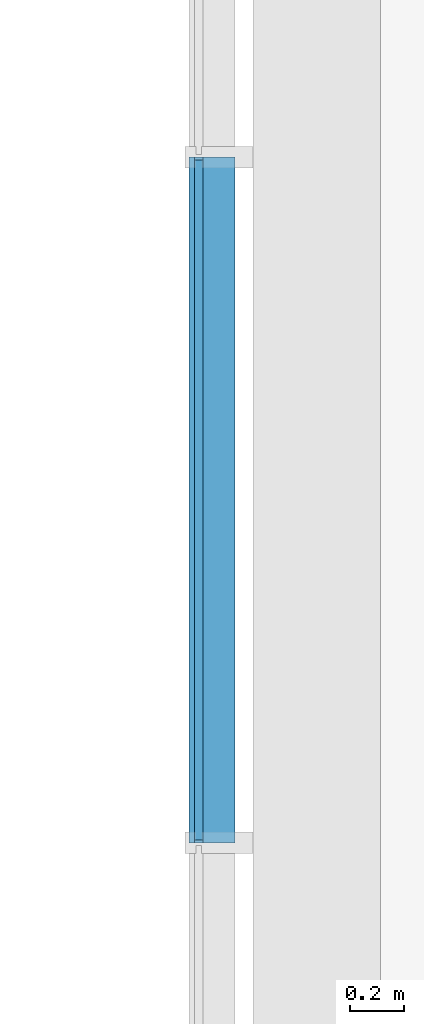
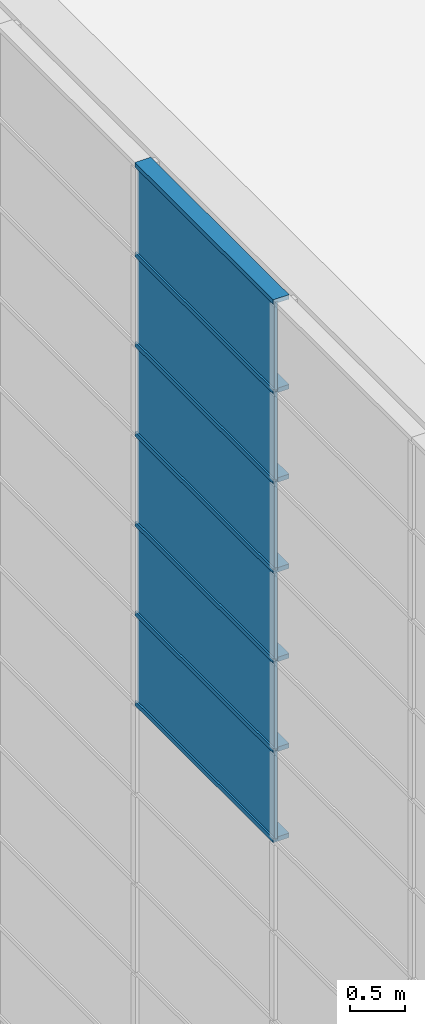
# One storey, part 18 of 105: 14 building element parts, 2 elements without a shape of their own.
"""IFC4 building model written with IfcOpenShell, lengths in millimetres."""

from ifc_helpers import new_model, entity, si_unit, converted_unit, derived_unit, direction, frame, origin_with_axes, place, context, subcontext, project, spatial, triangles, material, element, aggregate, save


model = new_model("IFC4")

# Units and contexts
model_context = context("Model", 3, precision=1e-05, world=origin_with_axes(), true_north=direction((0.0, 1.0)))
body_context = subcontext(model_context, "Body", "Model", "MODEL_VIEW")
ifc_project = project(units=[si_unit("LENGTHUNIT", "METRE", prefix="MILLI"), si_unit("AREAUNIT", "SQUARE_METRE"), si_unit("VOLUMEUNIT", "CUBIC_METRE"), converted_unit("PLANEANGLEUNIT", "DEGREE", entity("IfcLengthMeasure", 0.017453), si_unit("PLANEANGLEUNIT", "RADIAN"), dimensions=[0, 0, 0, 0, 0, 0, 0]), si_unit("SOLIDANGLEUNIT", "STERADIAN"), si_unit("MASSUNIT", "GRAM"), si_unit("TIMEUNIT", "SECOND"), si_unit("THERMODYNAMICTEMPERATUREUNIT", "DEGREE_CELSIUS"), si_unit("LUMINOUSINTENSITYUNIT", "LUMEN"), si_unit("POWERUNIT", "WATT"), derived_unit("THERMALTRANSMITTANCEUNIT", [(si_unit("POWERUNIT", "WATT"), 1), (si_unit("THERMODYNAMICTEMPERATUREUNIT", "KELVIN"), -1), (si_unit("AREAUNIT", "SQUARE_METRE"), -1)])], contexts=[model_context])

# Site, building, storey
site_placement = place(None, origin_with_axes())
site = spatial("IfcSite", under=ifc_project, at=site_placement, Name="Default Site", CompositionType="ELEMENT")
building_placement = place(site_placement, origin_with_axes())
building = spatial("IfcBuilding", under=site, at=building_placement, Name="Default Building", CompositionType="ELEMENT")
storey_placement = place(building_placement, origin_with_axes())
storey = spatial("IfcBuildingStorey", under=building, at=storey_placement, Name="OG - Story", CompositionType="ELEMENT", Elevation=0.0)

# Curtain wall, building element parts
curtain_wall_1_placement = place(storey_placement, origin_with_axes())
curtain_wall_1 = element("IfcCurtainWall", 1, at=curtain_wall_1_placement, inside=storey, Name="Fassade-003", PredefinedType="NOTDEFINED")
ifc_material_1 = material(Name="Normalglas")
building_element_part_1_placement = place(curtain_wall_1_placement, frame((31551.391327, -51326.104944, 6000.0), z_axis=(0.0, 0.0, 1.0), x_axis=(1.0, 0.0, 0.0)))
building_element_part_1 = element("IfcBuildingElementPart", 2, at=building_element_part_1_placement, material=ifc_material_1, Name="Normalglas", PredefinedType="NOTDEFINED", context=body_context, shape_type="Tessellation", body=[
    triangles([(15.0, 31568.947, 995.0), (-14.999, 31568.947, 995.0), (-14.999, 29062.632, 995.0), (15.0, 29062.632, 995.0), (15.0, 31568.947, 5.0), (-14.999, 31568.947, 5.0), (-14.999, 29062.632, 5.0), (15.0, 29062.632, 5.0)], [[1, 2, 3], [1, 3, 4], [5, 6, 2], [5, 2, 1], [2, 6, 7], [2, 7, 3], [4, 3, 7], [4, 7, 8], [1, 4, 8], [1, 8, 5], [8, 7, 6], [8, 6, 5]], closed=False),
])
building_element_part_2_placement = place(curtain_wall_1_placement, frame((31551.391327, -51326.104944, 6000.0), z_axis=(0.0, 0.0, 1.0), x_axis=(1.0, 0.0, 0.0)))
building_element_part_2 = element("IfcBuildingElementPart", 3, at=building_element_part_2_placement, material=ifc_material_1, Name="Normalglas", PredefinedType="NOTDEFINED", context=body_context, shape_type="Tessellation", body=[
    triangles([(15.0, 31568.947, 1995.0), (-14.999, 31568.947, 1995.0), (-14.999, 29062.632, 1995.0), (15.0, 29062.632, 1995.0), (15.0, 31568.947, 1005.0), (-14.999, 31568.947, 1005.0), (-14.999, 29062.632, 1005.0), (15.0, 29062.632, 1005.0)], [[1, 2, 3], [1, 3, 4], [5, 6, 2], [5, 2, 1], [2, 6, 7], [2, 7, 3], [4, 3, 7], [4, 7, 8], [1, 4, 8], [1, 8, 5], [8, 7, 6], [8, 6, 5]], closed=False),
])
building_element_part_3_placement = place(curtain_wall_1_placement, frame((31551.391327, -51326.104944, 6000.0), z_axis=(0.0, 0.0, 1.0), x_axis=(1.0, 0.0, 0.0)))
building_element_part_3 = element("IfcBuildingElementPart", 4, at=building_element_part_3_placement, material=ifc_material_1, Name="Normalglas", PredefinedType="NOTDEFINED", context=body_context, shape_type="Tessellation", body=[
    triangles([(15.0, 31568.947, 2995.0), (-14.999, 31568.947, 2995.0), (-14.999, 29062.632, 2995.0), (15.0, 29062.632, 2995.0), (15.0, 31568.947, 2005.0), (-14.999, 31568.947, 2005.0), (-14.999, 29062.632, 2005.0), (15.0, 29062.632, 2005.0)], [[1, 2, 3], [1, 3, 4], [5, 6, 2], [5, 2, 1], [2, 6, 7], [2, 7, 3], [4, 3, 7], [4, 7, 8], [1, 4, 8], [1, 8, 5], [8, 7, 6], [8, 6, 5]], closed=False),
])
ifc_material_2 = material(Name="Blech")
building_element_part_4_placement = place(curtain_wall_1_placement, frame((31551.391327, -51326.104944, 6000.0), z_axis=(0.0, 0.0, 1.0), x_axis=(1.0, 0.0, 0.0)))
building_element_part_4 = element("IfcBuildingElementPart", 5, at=building_element_part_4_placement, material=ifc_material_2, Name="Blech", PredefinedType="NOTDEFINED", context=body_context, shape_type="Tessellation", body=[
    triangles([(15.0, 31578.947, 25.0), (133.0, 31578.947, 25.0), (15.0, 31578.947, 5.0), (133.0, 31578.947, -24.999), (-14.999, 31578.947, 5.0), (-34.999, 31578.947, -24.999), (-34.999, 31578.947, 25.0), (-14.999, 31578.947, 25.0), (15.0, 29052.632, 5.0), (15.0, 29052.632, 25.0), (133.0, 29052.632, 25.0), (133.0, 29052.632, -24.999), (-34.999, 29052.632, -24.999), (-34.999, 29052.632, 25.0), (-14.999, 29052.632, 25.0), (-14.999, 29052.632, 5.0)], [[1, 2, 3], [3, 2, 4], [3, 4, 5], [5, 4, 6], [5, 6, 7], [5, 7, 8], [3, 9, 10], [3, 10, 1], [10, 11, 2], [10, 2, 1], [11, 12, 4], [11, 4, 2], [12, 13, 6], [12, 6, 4], [13, 14, 7], [13, 7, 6], [8, 7, 14], [8, 14, 15], [15, 16, 5], [15, 5, 8], [5, 16, 9], [5, 9, 3], [16, 9, 12], [16, 12, 13], [16, 13, 14], [16, 14, 15], [11, 12, 9], [11, 9, 10]], closed=False),
])
building_element_part_5_placement = place(curtain_wall_1_placement, frame((31551.391327, -51326.104944, 6000.0), z_axis=(0.0, 0.0, 1.0), x_axis=(1.0, 0.0, 0.0)))
building_element_part_5 = element("IfcBuildingElementPart", 6, at=building_element_part_5_placement, material=ifc_material_2, Name="Blech", PredefinedType="NOTDEFINED", context=body_context, shape_type="Tessellation", body=[
    triangles([(-14.999, 31578.947, 1025.0), (-34.999, 31578.947, 1025.0), (-14.999, 31578.947, 1005.0), (-14.999, 31578.947, 995.0), (15.0, 31578.947, 1005.0), (133.0, 31578.947, 1025.0), (15.0, 31578.947, 1025.0), (-34.999, 31578.947, 975.0), (-14.999, 31578.947, 975.0), (15.0, 31578.947, 995.0), (15.0, 31578.947, 975.0), (133.0, 31578.947, 975.0), (15.0, 29052.632, 995.0), (-14.999, 29052.632, 995.0), (-14.999, 29052.632, 975.0), (-34.999, 29052.632, 975.0), (-34.999, 29052.632, 1025.0), (-14.999, 29052.632, 1025.0), (-14.999, 29052.632, 1005.0), (15.0, 29052.632, 1005.0), (15.0, 29052.632, 1025.0), (133.0, 29052.632, 1025.0), (133.0, 29052.632, 975.0), (15.0, 29052.632, 975.0)], [[1, 2, 3], [3, 2, 4], [3, 4, 5], [5, 4, 6], [5, 6, 7], [8, 9, 4], [8, 4, 2], [6, 4, 10], [6, 10, 11], [6, 11, 12], [10, 13, 14], [10, 14, 4], [4, 14, 15], [4, 15, 9], [15, 16, 8], [15, 8, 9], [8, 16, 17], [8, 17, 2], [18, 1, 2], [18, 2, 17], [1, 18, 19], [1, 19, 3], [5, 3, 19], [5, 19, 20], [7, 5, 20], [7, 20, 21], [7, 21, 22], [7, 22, 6], [6, 22, 23], [6, 23, 12], [11, 12, 23], [11, 23, 24], [11, 24, 13], [11, 13, 10], [21, 22, 20], [20, 22, 13], [20, 13, 19], [19, 13, 14], [19, 14, 17], [17, 14, 15], [17, 15, 16], [23, 24, 13], [23, 13, 22], [19, 17, 18]], closed=False),
])
building_element_part_6_placement = place(curtain_wall_1_placement, frame((31551.391327, -51326.104944, 6000.0), z_axis=(0.0, 0.0, 1.0), x_axis=(1.0, 0.0, 0.0)))
building_element_part_6 = element("IfcBuildingElementPart", 7, at=building_element_part_6_placement, material=ifc_material_2, Name="Blech", PredefinedType="NOTDEFINED", context=body_context, shape_type="Tessellation", body=[
    triangles([(-14.999, 31578.947, 2025.0), (-34.999, 31578.947, 2025.0), (-14.999, 31578.947, 2005.0), (-14.999, 31578.947, 1995.0), (15.0, 31578.947, 2005.0), (133.0, 31578.947, 2025.0), (15.0, 31578.947, 2025.0), (-34.999, 31578.947, 1975.0), (-14.999, 31578.947, 1975.0), (15.0, 31578.947, 1995.0), (15.0, 31578.947, 1975.0), (133.0, 31578.947, 1975.0), (15.0, 29052.632, 1995.0), (-14.999, 29052.632, 1995.0), (-14.999, 29052.632, 1975.0), (-34.999, 29052.632, 1975.0), (-34.999, 29052.632, 2025.0), (-14.999, 29052.632, 2025.0), (-14.999, 29052.632, 2005.0), (15.0, 29052.632, 2005.0), (15.0, 29052.632, 2025.0), (133.0, 29052.632, 2025.0), (133.0, 29052.632, 1975.0), (15.0, 29052.632, 1975.0)], [[1, 2, 3], [3, 2, 4], [3, 4, 5], [5, 4, 6], [5, 6, 7], [8, 9, 4], [8, 4, 2], [6, 4, 10], [6, 10, 11], [6, 11, 12], [10, 13, 14], [10, 14, 4], [4, 14, 15], [4, 15, 9], [15, 16, 8], [15, 8, 9], [8, 16, 17], [8, 17, 2], [18, 1, 2], [18, 2, 17], [1, 18, 19], [1, 19, 3], [5, 3, 19], [5, 19, 20], [7, 5, 20], [7, 20, 21], [7, 21, 22], [7, 22, 6], [6, 22, 23], [6, 23, 12], [11, 12, 23], [11, 23, 24], [11, 24, 13], [11, 13, 10], [21, 22, 20], [20, 22, 13], [20, 13, 19], [19, 13, 14], [19, 14, 17], [17, 14, 15], [17, 15, 16], [23, 24, 13], [23, 13, 22], [19, 17, 18]], closed=False),
])
building_element_part_7_placement = place(curtain_wall_1_placement, frame((31551.391327, -51326.104944, 6000.0), z_axis=(0.0, 0.0, 1.0), x_axis=(1.0, 0.0, 0.0)))
building_element_part_7 = element("IfcBuildingElementPart", 8, at=building_element_part_7_placement, material=ifc_material_2, Name="Blech", PredefinedType="NOTDEFINED", context=body_context, shape_type="Tessellation", body=[
    triangles([(-14.999, 31578.947, 2995.0), (15.0, 31578.947, 2995.0), (133.0, 31578.947, 3025.0), (-34.999, 31578.947, 3025.0), (-34.999, 31578.947, 2975.0), (-14.999, 31578.947, 2975.0), (15.0, 31578.947, 2975.0), (133.0, 31578.947, 2975.0), (15.0, 29052.632, 2995.0), (-14.999, 29052.632, 2995.0), (-14.999, 29052.632, 2975.0), (-34.999, 29052.632, 2975.0), (-34.999, 29052.632, 3025.0), (133.0, 29052.632, 3025.0), (133.0, 29052.632, 2975.0), (15.0, 29052.632, 2975.0)], [[1, 2, 3], [1, 3, 4], [1, 4, 5], [1, 5, 6], [7, 8, 3], [7, 3, 2], [1, 2, 9], [1, 9, 10], [11, 6, 1], [11, 1, 10], [6, 11, 12], [6, 12, 5], [13, 4, 5], [13, 5, 12], [14, 3, 4], [14, 4, 13], [15, 8, 3], [15, 3, 14], [16, 7, 8], [16, 8, 15], [2, 7, 16], [2, 16, 9], [10, 9, 14], [10, 14, 13], [10, 13, 12], [10, 12, 11], [16, 15, 14], [16, 14, 9]], closed=False),
])
aggregate(curtain_wall_1, [building_element_part_1, building_element_part_2, building_element_part_3, building_element_part_4, building_element_part_5, building_element_part_6, building_element_part_7])

curtain_wall_2_placement = place(storey_placement, origin_with_axes())
curtain_wall_2 = element("IfcCurtainWall", 9, at=curtain_wall_2_placement, inside=storey, Name="Fassade-003", PredefinedType="NOTDEFINED")
building_element_part_8_placement = place(curtain_wall_2_placement, frame((31551.391327, -51326.104944, 9000.0), z_axis=(0.0, 0.0, 1.0), x_axis=(1.0, 0.0, 0.0)))
building_element_part_8 = element("IfcBuildingElementPart", 10, at=building_element_part_8_placement, material=ifc_material_1, Name="Normalglas", PredefinedType="NOTDEFINED", context=body_context, shape_type="Tessellation", body=[
    triangles([(15.0, 31568.947, 995.0), (-14.999, 31568.947, 995.0), (-14.999, 29062.632, 995.0), (15.0, 29062.632, 995.0), (15.0, 31568.947, 5.0), (-14.999, 31568.947, 5.0), (-14.999, 29062.632, 5.0), (15.0, 29062.632, 5.0)], [[1, 2, 3], [1, 3, 4], [5, 6, 2], [5, 2, 1], [2, 6, 7], [2, 7, 3], [4, 3, 7], [4, 7, 8], [1, 4, 8], [1, 8, 5], [8, 7, 6], [8, 6, 5]], closed=False),
])
building_element_part_9_placement = place(curtain_wall_2_placement, frame((31551.391327, -51326.104944, 9000.0), z_axis=(0.0, 0.0, 1.0), x_axis=(1.0, 0.0, 0.0)))
building_element_part_9 = element("IfcBuildingElementPart", 11, at=building_element_part_9_placement, material=ifc_material_1, Name="Normalglas", PredefinedType="NOTDEFINED", context=body_context, shape_type="Tessellation", body=[
    triangles([(15.0, 31568.947, 1995.0), (-14.999, 31568.947, 1995.0), (-14.999, 29062.632, 1995.0), (15.0, 29062.632, 1995.0), (15.0, 31568.947, 1005.0), (-14.999, 31568.947, 1005.0), (-14.999, 29062.632, 1005.0), (15.0, 29062.632, 1005.0)], [[1, 2, 3], [1, 3, 4], [5, 6, 2], [5, 2, 1], [2, 6, 7], [2, 7, 3], [4, 3, 7], [4, 7, 8], [1, 4, 8], [1, 8, 5], [8, 7, 6], [8, 6, 5]], closed=False),
])
building_element_part_10_placement = place(curtain_wall_2_placement, frame((31551.391327, -51326.104944, 9000.0), z_axis=(0.0, 0.0, 1.0), x_axis=(1.0, 0.0, 0.0)))
building_element_part_10 = element("IfcBuildingElementPart", 12, at=building_element_part_10_placement, material=ifc_material_1, Name="Normalglas", PredefinedType="NOTDEFINED", context=body_context, shape_type="Tessellation", body=[
    triangles([(15.0, 31568.947, 2995.0), (-14.999, 31568.947, 2995.0), (-14.999, 29062.632, 2995.0), (15.0, 29062.632, 2995.0), (15.0, 31568.947, 2005.0), (-14.999, 31568.947, 2005.0), (-14.999, 29062.632, 2005.0), (15.0, 29062.632, 2005.0)], [[1, 2, 3], [1, 3, 4], [5, 6, 2], [5, 2, 1], [2, 6, 7], [2, 7, 3], [4, 3, 7], [4, 7, 8], [1, 4, 8], [1, 8, 5], [8, 7, 6], [8, 6, 5]], closed=False),
])
building_element_part_11_placement = place(curtain_wall_2_placement, frame((31551.391327, -51326.104944, 9000.0), z_axis=(0.0, 0.0, 1.0), x_axis=(1.0, 0.0, 0.0)))
building_element_part_11 = element("IfcBuildingElementPart", 13, at=building_element_part_11_placement, material=ifc_material_2, Name="Blech", PredefinedType="NOTDEFINED", context=body_context, shape_type="Tessellation", body=[
    triangles([(15.0, 31578.947, 25.0), (133.0, 31578.947, 25.0), (15.0, 31578.947, 5.0), (133.0, 31578.947, -24.999), (-14.999, 31578.947, 5.0), (-34.999, 31578.947, -24.999), (-34.999, 31578.947, 25.0), (-14.999, 31578.947, 25.0), (15.0, 29052.632, 5.0), (15.0, 29052.632, 25.0), (133.0, 29052.632, 25.0), (133.0, 29052.632, -24.999), (-34.999, 29052.632, -24.999), (-34.999, 29052.632, 25.0), (-14.999, 29052.632, 25.0), (-14.999, 29052.632, 5.0)], [[1, 2, 3], [3, 2, 4], [3, 4, 5], [5, 4, 6], [5, 6, 7], [5, 7, 8], [3, 9, 10], [3, 10, 1], [10, 11, 2], [10, 2, 1], [11, 12, 4], [11, 4, 2], [12, 13, 6], [12, 6, 4], [13, 14, 7], [13, 7, 6], [8, 7, 14], [8, 14, 15], [15, 16, 5], [15, 5, 8], [5, 16, 9], [5, 9, 3], [16, 9, 12], [16, 12, 13], [16, 13, 14], [16, 14, 15], [11, 12, 9], [11, 9, 10]], closed=False),
])
building_element_part_12_placement = place(curtain_wall_2_placement, frame((31551.391327, -51326.104944, 9000.0), z_axis=(0.0, 0.0, 1.0), x_axis=(1.0, 0.0, 0.0)))
building_element_part_12 = element("IfcBuildingElementPart", 14, at=building_element_part_12_placement, material=ifc_material_2, Name="Blech", PredefinedType="NOTDEFINED", context=body_context, shape_type="Tessellation", body=[
    triangles([(-14.999, 31578.947, 1025.0), (-34.999, 31578.947, 1025.0), (-14.999, 31578.947, 1005.0), (-14.999, 31578.947, 995.0), (15.0, 31578.947, 1005.0), (133.0, 31578.947, 1025.0), (15.0, 31578.947, 1025.0), (-34.999, 31578.947, 975.0), (-14.999, 31578.947, 975.0), (15.0, 31578.947, 995.0), (15.0, 31578.947, 975.0), (133.0, 31578.947, 975.0), (15.0, 29052.632, 995.0), (-14.999, 29052.632, 995.0), (-14.999, 29052.632, 975.0), (-34.999, 29052.632, 975.0), (-34.999, 29052.632, 1025.0), (-14.999, 29052.632, 1025.0), (-14.999, 29052.632, 1005.0), (15.0, 29052.632, 1005.0), (15.0, 29052.632, 1025.0), (133.0, 29052.632, 1025.0), (133.0, 29052.632, 975.0), (15.0, 29052.632, 975.0)], [[1, 2, 3], [3, 2, 4], [3, 4, 5], [5, 4, 6], [5, 6, 7], [8, 9, 4], [8, 4, 2], [6, 4, 10], [6, 10, 11], [6, 11, 12], [10, 13, 14], [10, 14, 4], [4, 14, 15], [4, 15, 9], [15, 16, 8], [15, 8, 9], [8, 16, 17], [8, 17, 2], [18, 1, 2], [18, 2, 17], [1, 18, 19], [1, 19, 3], [5, 3, 19], [5, 19, 20], [7, 5, 20], [7, 20, 21], [7, 21, 22], [7, 22, 6], [6, 22, 23], [6, 23, 12], [11, 12, 23], [11, 23, 24], [11, 24, 13], [11, 13, 10], [21, 22, 20], [20, 22, 13], [20, 13, 19], [19, 13, 14], [19, 14, 17], [17, 14, 15], [17, 15, 16], [23, 24, 13], [23, 13, 22], [19, 17, 18]], closed=False),
])
building_element_part_13_placement = place(curtain_wall_2_placement, frame((31551.391327, -51326.104944, 9000.0), z_axis=(0.0, 0.0, 1.0), x_axis=(1.0, 0.0, 0.0)))
building_element_part_13 = element("IfcBuildingElementPart", 15, at=building_element_part_13_placement, material=ifc_material_2, Name="Blech", PredefinedType="NOTDEFINED", context=body_context, shape_type="Tessellation", body=[
    triangles([(-14.999, 31578.947, 2025.0), (-34.999, 31578.947, 2025.0), (-14.999, 31578.947, 2005.0), (-14.999, 31578.947, 1995.0), (15.0, 31578.947, 2005.0), (133.0, 31578.947, 2025.0), (15.0, 31578.947, 2025.0), (-34.999, 31578.947, 1975.0), (-14.999, 31578.947, 1975.0), (15.0, 31578.947, 1995.0), (15.0, 31578.947, 1975.0), (133.0, 31578.947, 1975.0), (15.0, 29052.632, 1995.0), (-14.999, 29052.632, 1995.0), (-14.999, 29052.632, 1975.0), (-34.999, 29052.632, 1975.0), (-34.999, 29052.632, 2025.0), (-14.999, 29052.632, 2025.0), (-14.999, 29052.632, 2005.0), (15.0, 29052.632, 2005.0), (15.0, 29052.632, 2025.0), (133.0, 29052.632, 2025.0), (133.0, 29052.632, 1975.0), (15.0, 29052.632, 1975.0)], [[1, 2, 3], [3, 2, 4], [3, 4, 5], [5, 4, 6], [5, 6, 7], [8, 9, 4], [8, 4, 2], [6, 4, 10], [6, 10, 11], [6, 11, 12], [10, 13, 14], [10, 14, 4], [4, 14, 15], [4, 15, 9], [15, 16, 8], [15, 8, 9], [8, 16, 17], [8, 17, 2], [18, 1, 2], [18, 2, 17], [1, 18, 19], [1, 19, 3], [5, 3, 19], [5, 19, 20], [7, 5, 20], [7, 20, 21], [7, 21, 22], [7, 22, 6], [6, 22, 23], [6, 23, 12], [11, 12, 23], [11, 23, 24], [11, 24, 13], [11, 13, 10], [21, 22, 20], [20, 22, 13], [20, 13, 19], [19, 13, 14], [19, 14, 17], [17, 14, 15], [17, 15, 16], [23, 24, 13], [23, 13, 22], [19, 17, 18]], closed=False),
])
building_element_part_14_placement = place(curtain_wall_2_placement, frame((31551.391327, -51326.104944, 9000.0), z_axis=(0.0, 0.0, 1.0), x_axis=(1.0, 0.0, 0.0)))
building_element_part_14 = element("IfcBuildingElementPart", 16, at=building_element_part_14_placement, material=ifc_material_2, Name="Blech", PredefinedType="NOTDEFINED", context=body_context, shape_type="Tessellation", body=[
    triangles([(-14.999, 31578.947, 2995.0), (15.0, 31578.947, 2995.0), (133.0, 31578.947, 3025.0), (-34.999, 31578.947, 3025.0), (-34.999, 31578.947, 2975.0), (-14.999, 31578.947, 2975.0), (15.0, 31578.947, 2975.0), (133.0, 31578.947, 2975.0), (15.0, 29052.632, 2995.0), (-14.999, 29052.632, 2995.0), (-14.999, 29052.632, 2975.0), (-34.999, 29052.632, 2975.0), (-34.999, 29052.632, 3025.0), (133.0, 29052.632, 3025.0), (133.0, 29052.632, 2975.0), (15.0, 29052.632, 2975.0)], [[1, 2, 3], [1, 3, 4], [1, 4, 5], [1, 5, 6], [7, 8, 3], [7, 3, 2], [1, 2, 9], [1, 9, 10], [11, 6, 1], [11, 1, 10], [6, 11, 12], [6, 12, 5], [13, 4, 5], [13, 5, 12], [14, 3, 4], [14, 4, 13], [15, 8, 3], [15, 3, 14], [16, 7, 8], [16, 8, 15], [2, 7, 16], [2, 16, 9], [10, 9, 14], [10, 14, 13], [10, 13, 12], [10, 12, 11], [16, 15, 14], [16, 14, 9]], closed=False),
])
aggregate(curtain_wall_2, [building_element_part_8, building_element_part_9, building_element_part_10, building_element_part_11, building_element_part_12, building_element_part_13, building_element_part_14])

save(model, "model.ifc")
